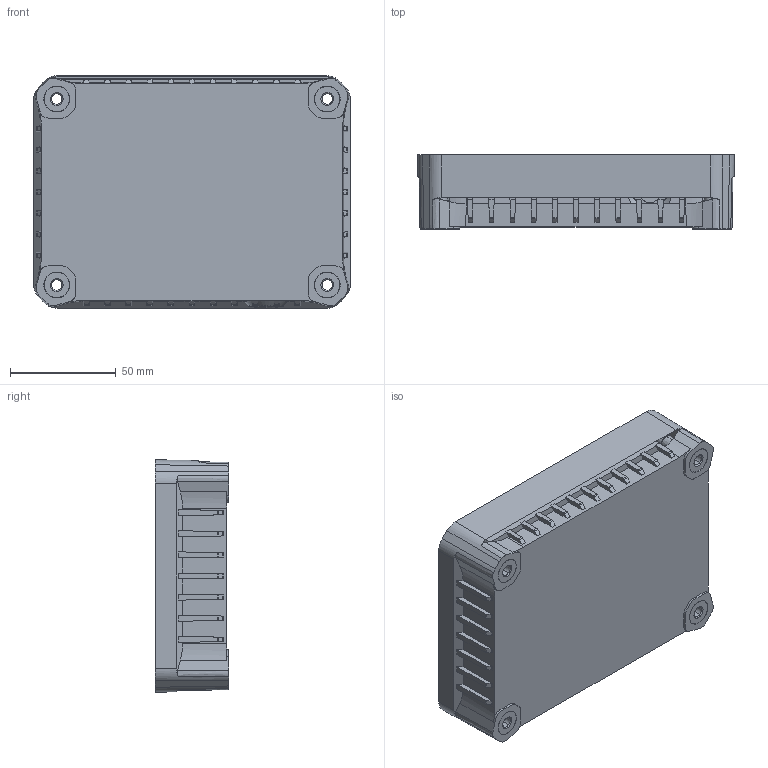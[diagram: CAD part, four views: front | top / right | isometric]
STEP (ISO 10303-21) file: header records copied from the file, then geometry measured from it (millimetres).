
FILE_DESCRIPTION (( 'STEP AP203' ), '1' );
FILE_NAME ('S-E1431.STEP', '2018-05-28T10:19:26', ( '' ), ( '' ), 'SwSTEP 2.0', 'SolidWorks 2018', '' );
FILE_SCHEMA (( 'CONFIG_CONTROL_DESIGN' ));
Products named in the file (1): S-E1431
Bounding box: 150 x 35 x 110 mm (x, y, z)
Volume: 318338 mm3; surface area: 71033.8 mm2
Topology: 2 solids, 3 shells, 1177 faces, 3392 edges, 2078 vertices
Faces by surface type: plane 525, cylinder 275, bspline 258, cone 118, torus 1
Entity records: 81008 total; most frequent: CARTESIAN_POINT 54260, ORIENTED_EDGE 6784, DIRECTION 4007, EDGE_CURVE 3392, VERTEX_POINT 2078, LINE 1481, VECTOR 1481, EDGE_LOOP 1268
